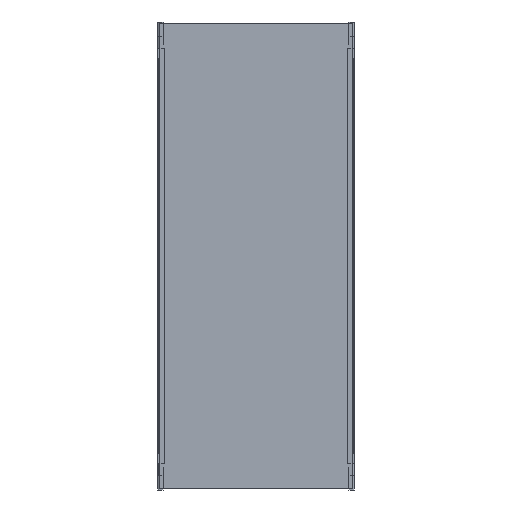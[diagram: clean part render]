
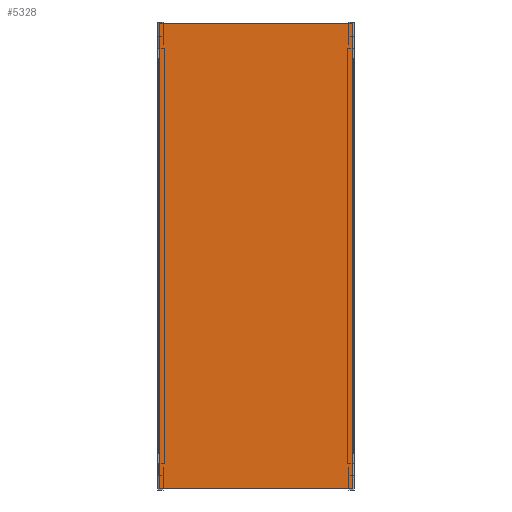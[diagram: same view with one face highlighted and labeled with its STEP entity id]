
A CAD part, front view. The second image highlights one B-rep face of the part: STEP entity #5328.
In plain terms, the highlighted planar face has unit normal (0, -1, 0).
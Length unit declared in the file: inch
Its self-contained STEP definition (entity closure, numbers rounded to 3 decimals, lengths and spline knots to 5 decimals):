
#5213=DIRECTION('',(1.,0.,0.));
#5214=VECTOR('',#5213,23.875);
#5215=CARTESIAN_POINT('',(-11.9375,-0.04,28.706));
#5216=LINE('',#5215,#5214);
#5217=DIRECTION('',(0.,0.,-1.));
#5218=VECTOR('',#5217,57.412);
#5219=CARTESIAN_POINT('',(11.9375,-0.04,28.706));
#5220=LINE('',#5219,#5218);
#5221=DIRECTION('',(-1.,0.,0.));
#5222=VECTOR('',#5221,23.875);
#5223=CARTESIAN_POINT('',(11.9375,-0.04,-28.706));
#5224=LINE('',#5223,#5222);
#5225=DIRECTION('',(0.,0.,1.));
#5226=VECTOR('',#5225,57.412);
#5227=CARTESIAN_POINT('',(-11.9375,-0.04,-28.706));
#5228=LINE('',#5227,#5226);
#5237=CARTESIAN_POINT('',(-11.9375,-0.04,28.706));
#5238=CARTESIAN_POINT('',(11.9375,-0.04,28.706));
#5239=VERTEX_POINT('',#5237);
#5240=VERTEX_POINT('',#5238);
#5241=CARTESIAN_POINT('',(11.9375,-0.04,-28.706));
#5242=VERTEX_POINT('',#5241);
#5243=CARTESIAN_POINT('',(-11.9375,-0.04,-28.706));
#5244=VERTEX_POINT('',#5243);
#5317=CARTESIAN_POINT('',(0.,-0.04,0.));
#5318=DIRECTION('',(0.,1.,0.));
#5319=DIRECTION('',(1.,0.,0.));
#5320=AXIS2_PLACEMENT_3D('',#5317,#5318,#5319);
#5321=PLANE('',#5320);
#5322=ORIENTED_EDGE('',*,*,#5269,.T.);
#5323=ORIENTED_EDGE('',*,*,#5284,.T.);
#5324=ORIENTED_EDGE('',*,*,#5298,.T.);
#5325=ORIENTED_EDGE('',*,*,#5311,.T.);
#5326=EDGE_LOOP('',(#5322,#5323,#5324,#5325));
#5327=FACE_OUTER_BOUND('',#5326,.F.);
#5328=ADVANCED_FACE('',(#5327),#5321,.F.);
#5269=EDGE_CURVE('',#5239,#5240,#5216,.T.);
#5284=EDGE_CURVE('',#5240,#5242,#5220,.T.);
#5298=EDGE_CURVE('',#5242,#5244,#5224,.T.);
#5311=EDGE_CURVE('',#5244,#5239,#5228,.T.);
